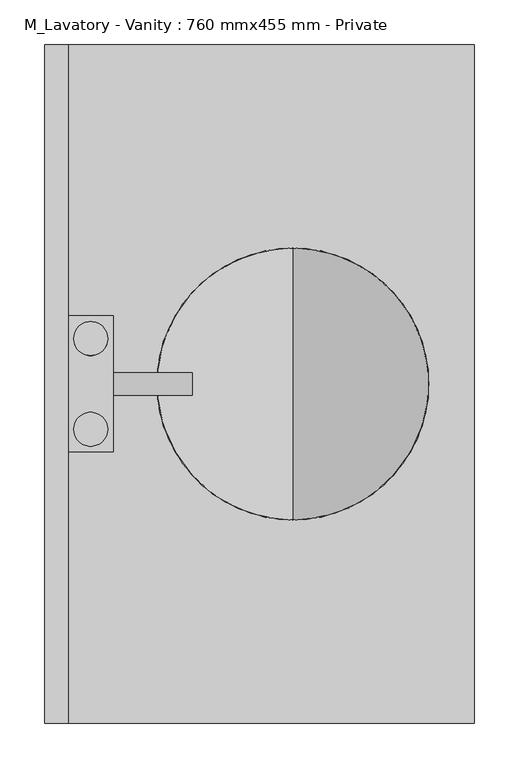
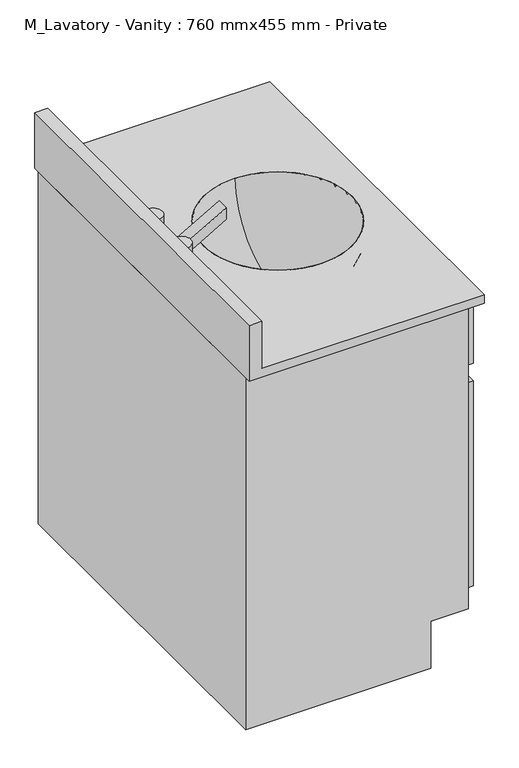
"""IFC4 building model written with IfcOpenShell, lengths in millimetres: flow terminal geometry, M_Lavatory - Vanity : 760 mmx455 mm - Private."""

import ifcopenshell
import ifcopenshell.guid

model = None  # the IFC model being written
_history = None  # IfcOwnerHistory: only IFC2X3 demands one
_inside = {}  # id of a spatial element -> (the spatial element, [elements in it])
_under = {}  # id of a project, library or spatial element -> (it, [spatial elements below it])
_declared = {}  # id of a project -> (the project, [libraries it declares])
_typed = {}  # id of a type object -> (the type object, [elements of that type])
_made_of = {}  # id of a material, layer set ... -> (it, [elements and type objects made of it])


def new_model(schema):
    """Start an empty IFC model of exactly this schema.

    Asked for "IFC4X3", IfcOpenShell would pick the latest addendum, in which some entities
    have other attributes; the version numbers below select the first issue.
    IFC2X3 requires an IfcOwnerHistory on every rooted entity: one is made here for all.
    """
    global model, _history
    if schema == "IFC4X3":
        model = ifcopenshell.file(schema_version=(4, 3, 0, 0))
    else:
        model = ifcopenshell.file(schema=schema)
    _inside.clear()
    _under.clear()
    _declared.clear()
    _typed.clear()
    _made_of.clear()
    _history = None
    if model.schema == "IFC2X3":
        org = make("IfcOrganization", Name="unknown")
        user = make(
            "IfcPersonAndOrganization",
            ThePerson=make("IfcPerson", FamilyName="unknown"),
            TheOrganization=org,
        )
        app = make(
            "IfcApplication",
            ApplicationDeveloper=org,
            Version="unknown",
            ApplicationFullName="unknown",
            ApplicationIdentifier="unknown",
        )
        _history = make(
            "IfcOwnerHistory",
            OwningUser=user,
            OwningApplication=app,
            ChangeAction="ADDED",
            CreationDate=0,
        )
    return model


def make(cls, **values):
    """One entity of the class cls with the attributes given. An attribute that is None is left unset."""
    return model.create_entity(
        cls, **{name: value for name, value in values.items() if value is not None}
    )


def rooted(cls, **values):
    """An entity with a GlobalId (a new one), such as an element, a storey or a relation."""
    return make(cls, GlobalId=ifcopenshell.guid.new(), OwnerHistory=_history, **values)


def si_unit(unit_type, name, prefix=None):
    """IfcSIUnit, for example si_unit("LENGTHUNIT", "METRE", prefix="MILLI")."""
    return make("IfcSIUnit", UnitType=unit_type, Prefix=prefix, Name=name)


def assignment(units):
    """IfcUnitAssignment: the units of a project."""
    return None if units is None else make("IfcUnitAssignment", Units=units)


def point(xyz):
    """IfcCartesianPoint."""
    return None if xyz is None else make("IfcCartesianPoint", Coordinates=xyz)


def direction(xyz):
    """IfcDirection."""
    return None if xyz is None else make("IfcDirection", DirectionRatios=xyz)


def frame(location, z_axis=None, x_axis=None):
    """IfcAxis2Placement3D, a coordinate frame: its origin and axes. An axis left out is left unset."""
    return make(
        "IfcAxis2Placement3D",
        Location=point(location),
        Axis=direction(z_axis),
        RefDirection=direction(x_axis),
    )


def origin():
    """The frame at (0, 0, 0) with its axes left unset."""
    return frame((0.0, 0.0, 0.0))


def place(relative_to, where):
    """IfcLocalPlacement: puts the frame where relative to a parent placement (None: the world)."""
    return make(
        "IfcLocalPlacement", PlacementRelTo=relative_to, RelativePlacement=where
    )


def context(
    kind, dimensions, precision=None, world=None, true_north=None, identifier=None
):
    """IfcGeometricRepresentationContext, for example the 3D "Model" context."""
    return make(
        "IfcGeometricRepresentationContext",
        ContextIdentifier=identifier,
        ContextType=kind,
        CoordinateSpaceDimension=dimensions,
        Precision=precision,
        WorldCoordinateSystem=world,
        TrueNorth=true_north,
    )


def project(units=None, contexts=None):
    """IfcProject with its units and contexts."""
    return rooted(
        "IfcProject",
        Name="project",
        RepresentationContexts=contexts,
        UnitsInContext=assignment(units),
    )


def spatial(cls, under=None, at=None, **own):
    """A site, building, storey or space (cls), placed at a placement, below another one or the project."""
    s = rooted(cls, ObjectPlacement=at, **own)
    if under is not None:
        _under.setdefault(under.id(), (under, []))[1].append(s)
    return s


def polyline(points):
    """IfcPolyline through the points."""
    return make("IfcPolyline", Points=[point(p) for p in points])


def circle_curve(where, radius):
    """IfcCircle in the frame where."""
    return make("IfcCircle", Position=where, Radius=radius)


def ellipse_curve(where, semi_axis1, semi_axis2):
    """IfcEllipse in the frame where."""
    return make(
        "IfcEllipse", Position=where, SemiAxis1=semi_axis1, SemiAxis2=semi_axis2
    )


def trimmed(basis, trim1, trim2, sense, master):
    """IfcTrimmedCurve: the piece of a basis curve between two trims."""
    return make(
        "IfcTrimmedCurve",
        BasisCurve=basis,
        Trim1=trim1,
        Trim2=trim2,
        SenseAgreement=sense,
        MasterRepresentation=master,
    )


def faces_of(points, faces, orient=None, outer=None):
    """IfcFace entities. A face is a list of loops; a loop is a list of indices into points, from 0.

    orient and outer hold one flag for each loop. By default every Orientation is true, the
    first loop of a face is its IfcFaceOuterBound and the others are IfcFaceBound.
    """
    made = []
    for i, loops in enumerate(faces):
        bounds = []
        for j, loop in enumerate(loops):
            is_outer = j == 0 if outer is None else outer[i][j]
            bounds.append(
                make(
                    "IfcFaceOuterBound" if is_outer else "IfcFaceBound",
                    Bound=make("IfcPolyLoop", Polygon=[points[k] for k in loop]),
                    Orientation=True if orient is None else orient[i][j],
                )
            )
        made.append(make("IfcFace", Bounds=bounds))
    return made


def faceted_brep(points, faces, orient=None, outer=None, voids=None):
    """IfcFacetedBrep: a solid bounded by flat faces; with voids (closed shells), ...WithVoids."""
    shared = [point(p) for p in points]
    hull = make("IfcClosedShell", CfsFaces=faces_of(shared, faces, orient, outer))
    if voids is None:
        return make("IfcFacetedBrep", Outer=hull)
    return make(
        "IfcFacetedBrepWithVoids",
        Outer=hull,
        Voids=[
            make(cls, CfsFaces=faces_of(shared, fs, o, b)) for cls, fs, o, b in voids
        ],
    )


def shape(context_of_items, identifier, shape_type, items):
    """IfcShapeRepresentation: the items that make up one representation, for example the "Body"."""
    return make(
        "IfcShapeRepresentation",
        ContextOfItems=context_of_items,
        RepresentationIdentifier=identifier,
        RepresentationType=shape_type,
        Items=items,
    )


def source(mapping_origin, context_of_items, identifier, shape_type, items):
    """IfcRepresentationMap: a shape defined once, which mapped items show again and again."""
    return make(
        "IfcRepresentationMap",
        MappingOrigin=mapping_origin,
        MappedRepresentation=shape(context_of_items, identifier, shape_type, items),
    )


def transform(
    local_origin,
    x_axis=None,
    y_axis=None,
    z_axis=None,
    scale=None,
    scale2=None,
    scale3=None,
    uniform=True,
):
    """IfcCartesianTransformationOperator3D, or its non-uniform kind. x_axis, y_axis, z_axis: its Axis1, 2, 3."""
    if uniform:
        return make(
            "IfcCartesianTransformationOperator3D",
            Axis1=direction(x_axis),
            Axis2=direction(y_axis),
            LocalOrigin=point(local_origin),
            Scale=scale,
            Axis3=direction(z_axis),
        )
    return make(
        "IfcCartesianTransformationOperator3DnonUniform",
        Axis1=direction(x_axis),
        Axis2=direction(y_axis),
        LocalOrigin=point(local_origin),
        Scale=scale,
        Axis3=direction(z_axis),
        Scale2=scale2,
        Scale3=scale3,
    )


def mapped(mapping_source, mapping_target):
    """IfcMappedItem: shows the shape of a source again, moved by a transform."""
    return make(
        "IfcMappedItem", MappingSource=mapping_source, MappingTarget=mapping_target
    )


def made_of(thing, what):
    """Note that an element or type object is made of a material, layer set ...; save() writes the relation."""
    if what is not None:
        _made_of.setdefault(what.id(), (what, []))[1].append(thing)
    return thing


def element(
    cls,
    number,
    at=None,
    inside=None,
    cuts=None,
    type_object=None,
    material=None,
    context=None,
    identifier="Body",
    shape_type=None,
    held_by="IfcProductDefinitionShape",
    body=None,
    shapes=None,
    **own,
):
    """One element of the class cls, such as IfcWall. Its Tag is "e" and its number.

    at: its placement. inside: the storey or other place that contains it. cuts: it is an
    opening in that element (IfcRelVoidsElement). A single representation is given by context,
    identifier, shape_type and body (its items); several are given by shapes. held_by: the class
    of the entity that holds the representations. save() writes the other relations.
    """
    e = rooted(cls, Tag="e%d" % number, ObjectPlacement=at, **own)
    if body is not None:
        shapes = [shape(context, identifier, shape_type, body)]
    if shapes is not None:
        e.Representation = make(held_by, Representations=shapes)
    if inside is not None:
        _inside.setdefault(inside.id(), (inside, []))[1].append(e)
    if cuts is not None:
        rooted(
            "IfcRelVoidsElement", RelatingBuildingElement=cuts, RelatedOpeningElement=e
        )
    if type_object is not None:
        _typed.setdefault(type_object.id(), (type_object, []))[1].append(e)
    return made_of(e, material)


def aggregate(whole, parts):
    """IfcRelAggregates: a whole, such as a stair, and the parts it consists of."""
    return rooted("IfcRelAggregates", RelatingObject=whole, RelatedObjects=parts)


def save(model, path):
    """Write the relations noted so far, then the file.

    IfcRelAggregates (storeys below a building ...), IfcRelContainedInSpatialStructure (elements
    in a storey), IfcRelDefinesByType, IfcRelAssociatesMaterial and IfcRelDeclares: one each for
    every whole, place, type object, material and project.
    """
    for whole, parts in _under.values():
        aggregate(whole, parts)
    for where, things in _inside.values():
        rooted(
            "IfcRelContainedInSpatialStructure",
            RelatedElements=things,
            RelatingStructure=where,
        )
    for kind, things in _typed.values():
        rooted("IfcRelDefinesByType", RelatedObjects=things, RelatingType=kind)
    for what, things in _made_of.values():
        rooted("IfcRelAssociatesMaterial", RelatedObjects=things, RelatingMaterial=what)
    for by, libraries in _declared.values():
        rooted("IfcRelDeclares", RelatingContext=by, RelatedDefinitions=libraries)
    model.write(path)


def plane_surface(at):
    """IfcPlane: the flat surface through the origin of the frame at, square to its z axis."""
    return make("IfcPlane", Position=at)


def cylinder_surface(at, radius):
    """IfcCylindricalSurface: all points at the distance radius from the z axis of the frame at."""
    return make("IfcCylindricalSurface", Position=at, Radius=radius)


def revolved_surface(curve, axis_point, axis_direction):
    """IfcSurfaceOfRevolution: the curve turned about the line through axis_point along axis_direction."""
    return make(
        "IfcSurfaceOfRevolution",
        SweptCurve=make("IfcArbitraryOpenProfileDef", ProfileType="CURVE", Curve=curve),
        AxisPosition=make("IfcAxis1Placement", Location=point(axis_point), Axis=direction(axis_direction)),
    )


def advanced_brep(points, edges, surfaces, faces):
    """IfcAdvancedBrep: a solid bounded by faces that lie on surfaces and meet in shared edges.

    An edge is (start, end): straight between two places in points (the first is 0);
    or (start, end, curve); or (start, end, curve, False) where it runs against its curve.
    A face is (place in surfaces, loops), or (place, loops, False) where it looks against
    its surface's normal. A loop lists edges by number (the first is 1), with a minus sign
    where the edge is run from its end to its start. The first loop is the outer one.
    """
    corners = [point(p) for p in points]
    vertices = [make("IfcVertexPoint", VertexGeometry=c) for c in corners]
    made = []
    for start, end, *more in edges:
        made.append(
            make(
                "IfcEdgeCurve",
                EdgeStart=vertices[start],
                EdgeEnd=vertices[end],
                EdgeGeometry=more[0] if more else make("IfcPolyline", Points=[corners[start], corners[end]]),
                SameSense=more[1] if len(more) > 1 else True,
            )
        )
    hull = []
    for where, loops, *sense in faces:
        bounds = []
        for j, loop in enumerate(loops):
            ring = [make("IfcOrientedEdge", EdgeElement=made[abs(k) - 1], Orientation=k > 0) for k in loop]
            bounds.append(
                make(
                    "IfcFaceOuterBound" if j == 0 else "IfcFaceBound",
                    Bound=make("IfcEdgeLoop", EdgeList=ring),
                    Orientation=True,
                )
            )
        hull.append(make("IfcAdvancedFace", Bounds=bounds, FaceSurface=surfaces[where], SameSense=sense[0] if sense else True))
    return make("IfcAdvancedBrep", Outer=make("IfcClosedShell", CfsFaces=hull))


def m_lavatory_vanity_760_mmx455_mm_private_5dea4168(model_context):
    return source(origin(), model_context, "Body", "SolidModel", [
        advanced_brep(
        [(32.54375, -50.8, 844.55), (70.64375, -50.8, 844.55), (32.54375, 50.8, 844.55), (70.64375, 50.8, 844.55), (70.64375, -50.8, 806.45), (32.54375, -50.8, 806.45), (70.64375, 50.8, 806.45), (32.54375, 50.8, 806.45), (76.99375, -76.2, 806.45), (76.99375, -12.7, 806.45), (76.99375, 12.7, 806.45), (76.99375, 76.2, 806.45), (26.19375, 76.2, 806.45), (26.19375, -76.2, 806.45), (76.99375, 76.2, 781.05), (76.99375, 12.7, 781.05), (76.99375, -12.7, 781.05), (76.99375, -76.2, 781.05), (26.19375, -76.2, 781.05), (26.19375, 76.2, 781.05), (165.1, 12.7, 857.25), (165.1, 12.7, 831.85), (165.1, -12.7, 831.85), (165.1, -12.7, 857.25)],
        [
            (0, 1, circle_curve(frame((51.59375, -50.8, 844.55), z_axis=(0.0, 0.0, 1.0), x_axis=(1.0, 0.0, 0.0)), 19.05)),
            (1, 0, circle_curve(frame((51.59375, -50.8, 844.55), z_axis=(0.0, 0.0, 1.0), x_axis=(1.0, 0.0, 0.0)), 19.05)),
            (2, 3, circle_curve(frame((51.59375, 50.8, 844.55), z_axis=(0.0, 0.0, 1.0), x_axis=(1.0, 0.0, 0.0)), 19.05)),
            (3, 2, circle_curve(frame((51.59375, 50.8, 844.55), z_axis=(0.0, 0.0, 1.0), x_axis=(1.0, 0.0, 0.0)), 19.05)),
            (1, 4),
            (4, 5, circle_curve(frame((51.59375, -50.8, 806.45), z_axis=(0.0, 0.0, 1.0), x_axis=(1.0, 0.0, 0.0)), 19.05)),
            (5, 0),
            (5, 4, circle_curve(frame((51.59375, -50.8, 806.45), z_axis=(0.0, 0.0, 1.0), x_axis=(1.0, 0.0, 0.0)), 19.05)),
            (3, 6),
            (6, 7, circle_curve(frame((51.59375, 50.8, 806.45), z_axis=(0.0, 0.0, 1.0), x_axis=(1.0, 0.0, 0.0)), 19.05)),
            (7, 2),
            (7, 6, circle_curve(frame((51.59375, 50.8, 806.45), z_axis=(0.0, 0.0, 1.0), x_axis=(1.0, 0.0, 0.0)), 19.05)),
            (8, 9),
            (9, 10),
            (10, 11),
            (11, 12),
            (12, 13),
            (13, 8),
            (14, 15),
            (15, 16),
            (16, 17),
            (17, 18),
            (18, 19),
            (19, 14),
            (13, 18),
            (17, 8),
            (12, 19),
            (11, 14),
            (10, 15),
            (16, 9),
            (10, 20),
            (20, 21),
            (21, 15),
            (16, 22),
            (22, 23),
            (23, 9),
            (21, 22),
            (20, 23),
        ],
        [
            plane_surface(frame((70.64375, -50.8, 844.55), z_axis=(0.0, 0.0, 1.0), x_axis=(0.0, -1.0, 0.0))),
            cylinder_surface(frame((51.59375, -50.8, 806.45), z_axis=(0.0, 0.0, 1.0), x_axis=(1.0, 0.0, 0.0)), 19.05),
            cylinder_surface(frame((51.59375, 50.8, 0.0), z_axis=(0.0, 0.0, 1.0), x_axis=(1.0, 0.0, 0.0)), 19.05),
            plane_surface(frame((26.19375, -76.2, 806.45), z_axis=(0.0, 0.0, 1.0), x_axis=(-1.0, 0.0, 0.0))),
            plane_surface(frame((26.19375, -76.2, 781.05), z_axis=(0.0, 0.0, -1.0), x_axis=(1.0, 0.0, 0.0))),
            plane_surface(frame((76.99375, -76.2, 806.45), z_axis=(0.0, -1.0, 0.0), x_axis=(0.0, 0.0, -1.0))),
            plane_surface(frame((26.19375, -76.2, 806.45), z_axis=(-1.0, 0.0, 0.0), x_axis=(0.0, 0.0, -1.0))),
            plane_surface(frame((26.19375, 76.2, 806.45), z_axis=(0.0, 1.0, 0.0), x_axis=(0.0, 0.0, -1.0))),
            plane_surface(frame((76.99375, 76.2, 806.45), z_axis=(1.0, 0.0, 0.0), x_axis=(0.0, 0.0, -1.0))),
            plane_surface(frame((76.99375, 12.7, 806.45), z_axis=(0.0, 1.0, 0.0), x_axis=(0.0, 0.0, -1.0))),
            plane_surface(frame((76.99375, -12.7, 806.45), z_axis=(0.0, -1.0, 0.0), x_axis=(0.0, 0.0, 1.0))),
            plane_surface(frame((76.99375, 12.7, 781.05), z_axis=(0.4994972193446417, 0.0, -0.8663154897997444), x_axis=(0.0, -1.0, 0.0))),
            plane_surface(frame((165.1, 12.7, 831.85), z_axis=(1.0, 0.0, 0.0), x_axis=(0.0, -1.0, 0.0))),
            plane_surface(frame((165.1, 12.7, 857.25), z_axis=(-0.4994972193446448, 0.0, 0.8663154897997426), x_axis=(0.0, -1.0, 0.0))),
        ],
        [
            (0, [[1, 2]]),
            (0, [[3, 4]]),
            (1, [[5, 6, 7, -2]]),
            (1, [[-7, 8, -5, -1]]),
            (2, [[9, 10, 11, -4]]),
            (2, [[-11, 12, -9, -3]]),
            (3, [[13, 14, 15, 16, 17, 18], [-8, -6], [-12, -10]]),
            (4, [[19, 20, 21, 22, 23, 24]]),
            (5, [[25, -22, 26, -18]]),
            (6, [[27, -23, -25, -17]]),
            (7, [[28, -24, -27, -16]]),
            (8, [[-15, 29, -19, -28]]),
            (8, [[-21, 30, -13, -26]]),
            (9, [[-29, 31, 32, 33]]),
            (10, [[-30, 34, 35, 36]]),
            (11, [[37, -34, -20, -33]]),
            (12, [[38, -35, -37, -32]]),
            (13, [[-14, -36, -38, -31]]),
        ],
    ),
        advanced_brep(
        [(277.99375, 0.0, 628.65), (277.99375, 152.4, 781.05), (277.99375, -152.4, 781.05), (277.99375, 44.45, 628.65), (277.99375, 0.0, 628.65), (277.99375, -44.45, 628.65), (277.99375, 157.6028553, 762.0), (277.99375, -157.6028553, 762.0)],
        [
            (0, 1, circle_curve(frame((277.99375, 0.0, 781.05), z_axis=(1.0, 0.0, 0.0), x_axis=(0.0, 1.0, 0.0)), 152.4)),
            (1, 2, circle_curve(frame((277.99375, 0.0, 781.05), z_axis=(0.0, 0.0, 1.0), x_axis=(0.0, -1.0, 0.0)), 152.4)),
            (2, 0, circle_curve(frame((277.99375, 0.0, 781.05), z_axis=(1.0, 0.0, 0.0), x_axis=(0.0, -1.0, 0.0)), 152.4)),
            (2, 1, circle_curve(frame((277.99375, 0.0, 781.05), z_axis=(0.0, 0.0, 1.0), x_axis=(0.0, -1.0, 0.0)), 152.4)),
            (3, 4),
            (4, 5),
            (5, 3, circle_curve(frame((277.99375, 0.0, 628.65), z_axis=(0.0, 0.0, -1.0), x_axis=(0.0, -1.0, 0.0)), 44.45)),
            (3, 5, circle_curve(frame((277.99375, 0.0, 628.65), z_axis=(0.0, 0.0, -1.0), x_axis=(0.0, -1.0, 0.0)), 44.45)),
            (6, 3, circle_curve(frame((277.99375, 0.0, 781.05), z_axis=(-1.0, 0.0, 0.0), x_axis=(0.0, 1.0, 0.0)), 158.75)),
            (5, 7, circle_curve(frame((277.99375, 0.0, 781.05), z_axis=(-1.0, 0.0, 0.0), x_axis=(0.0, -1.0, 0.0)), 158.75)),
            (7, 6, circle_curve(frame((277.99375, 0.0, 762.0), z_axis=(0.0, 0.0, -1.0), x_axis=(0.0, -1.0, 0.0)), 157.6028553)),
            (6, 7, circle_curve(frame((277.99375, 0.0, 762.0), z_axis=(0.0, 0.0, -1.0), x_axis=(0.0, -1.0, 0.0)), 157.6028553)),
            (1, 6),
            (7, 2),
        ],
        [
            revolved_surface(trimmed(ellipse_curve(frame((277.99375, 0.0, 781.05), z_axis=(1.0, 0.0, 0.0), x_axis=(0.0, -1.0, 0.0)), 152.4, 152.4), [point((277.99375, -152.4, 781.05))], [point((277.99375, 0.0, 628.65))], True, "CARTESIAN"), (277.99375, 0.0, 520.7), (0.0, 0.0, 1.0)),
            plane_surface(frame((277.99375, 0.0, 628.65), z_axis=(0.0, 0.0, -1.0), x_axis=(0.0, -1.0, 0.0))),
            revolved_surface(trimmed(ellipse_curve(frame((277.99375, 0.0, 781.05), z_axis=(-1.0, 0.0, 0.0), x_axis=(0.0, -1.0, 0.0)), 158.75, 158.75), [point((277.99375, -44.45, 628.65))], [point((277.99375, -157.6028553, 762.0))], True, "CARTESIAN"), (277.99375, 0.0, 520.7), (0.0, 0.0, 1.0)),
            revolved_surface(polyline([(277.99375, -157.6028553, 762.0), (277.99375, -152.4, 781.05)]), (277.99375, 0.0, 520.7), (0.0, 0.0, 1.0)),
        ],
        [
            (0, [[1, 2, 3]]),
            (0, [[-3, 4, -1]]),
            (1, [[5, 6, 7]]),
            (1, [[-6, -5, 8]]),
            (2, [[9, -7, 10, 11]]),
            (2, [[-10, -8, -9, 12]]),
            (3, [[13, -11, 14, -2]]),
            (3, [[-14, -12, -13, -4]]),
        ],
    ),
        advanced_brep(
        [(481.19375, 380.0, 781.05), (26.19375, 380.0, 781.05), (26.19375, -380.0, 781.05), (481.19375, -380.0, 781.05), (430.39375, 0.0, 781.05), (125.59375, 0.0, 781.05), (481.19375, -380.0, 762.0), (0.0, -380.0, 762.0), (0.0, 380.0, 762.0), (481.19375, 380.0, 762.0), (125.59375, 0.0, 762.0), (430.39375, 0.0, 762.0), (26.19375, -380.0, 882.65), (0.0, -380.0, 882.65), (0.0, 380.0, 882.65), (26.19375, 380.0, 882.65)],
        [
            (0, 1),
            (1, 2),
            (2, 3),
            (3, 0),
            (4, 5, circle_curve(frame((277.99375, 0.0, 781.05), z_axis=(0.0, 0.0, -1.0), x_axis=(1.0, 0.0, 0.0)), 152.4)),
            (5, 4, circle_curve(frame((277.99375, 0.0, 781.05), z_axis=(0.0, 0.0, -1.0), x_axis=(1.0, 0.0, 0.0)), 152.4)),
            (6, 7),
            (7, 8),
            (8, 9),
            (9, 6),
            (10, 11, circle_curve(frame((277.99375, 0.0, 762.0), z_axis=(0.0, 0.0, 1.0), x_axis=(1.0, 0.0, 0.0)), 152.4)),
            (11, 10, circle_curve(frame((277.99375, 0.0, 762.0), z_axis=(0.0, 0.0, 1.0), x_axis=(1.0, 0.0, 0.0)), 152.4)),
            (6, 3),
            (2, 12),
            (12, 13),
            (13, 7),
            (13, 14),
            (14, 8),
            (14, 15),
            (15, 1),
            (0, 9),
            (5, 10),
            (11, 4),
            (12, 15),
        ],
        [
            plane_surface(frame((0.0, -380.0, 781.05), z_axis=(0.0, 0.0, 1.0), x_axis=(-1.0, 0.0, 0.0))),
            plane_surface(frame((0.0, -380.0, 762.0), z_axis=(0.0, 0.0, -1.0), x_axis=(1.0, 0.0, 0.0))),
            plane_surface(frame((481.19375, -380.0, 781.05), z_axis=(0.0, -1.0, 0.0), x_axis=(0.0, 0.0, -1.0))),
            plane_surface(frame((0.0, -380.0, 781.05), z_axis=(-1.0, 0.0, 0.0), x_axis=(0.0, 0.0, -1.0))),
            plane_surface(frame((0.0, 380.0, 781.05), z_axis=(0.0, 1.0, 0.0), x_axis=(0.0, 0.0, -1.0))),
            plane_surface(frame((481.19375, 380.0, 781.05), z_axis=(1.0, 0.0, 0.0), x_axis=(0.0, 0.0, -1.0))),
            revolved_surface(polyline([(430.39374999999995, 0.0, 781.05), (430.39374999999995, 0.0, 762.0)]), (277.99375, 0.0, 762.0), (0.0, 0.0, 1.0)),
            plane_surface(frame((0.0, -380.0, 882.65), z_axis=(0.0, 0.0, 1.0), x_axis=(-1.0, 0.0, 0.0))),
            plane_surface(frame((26.19375, 380.0, 882.65), z_axis=(1.0, 0.0, 0.0), x_axis=(0.0, 0.0, -1.0))),
        ],
        [
            (0, [[1, 2, 3, 4], [5, 6]]),
            (1, [[7, 8, 9, 10], [11, 12]]),
            (2, [[13, -3, 14, 15, 16, -7]]),
            (3, [[17, 18, -8, -16]]),
            (4, [[19, 20, -1, 21, -9, -18]]),
            (5, [[-13, -10, -21, -4]]),
            (6, [[-6, 22, -12, 23]]),
            (6, [[-11, -22, -5, -23]]),
            (7, [[24, -19, -17, -15]]),
            (8, [[-14, -2, -20, -24]]),
        ],
    ),
        faceted_brep([(379.59375, -367.3, 0.0), (0.0, -367.3, 0.0), (0.0, 367.3, 0.0), (379.59375, 367.3, 0.0), (379.59375, -367.3, 101.6), (455.79375, -367.3, 101.6), (455.79375, -367.3, 762.0), (0.0, -367.3, 762.0), (0.0, 367.3, 762.0), (455.79375, 367.3, 762.0), (455.79375, 367.3, 101.6), (379.59375, 367.3, 101.6), (26.19375, -341.9, 762.0), (26.19375, 341.9, 762.0), (443.09375, 341.9, 762.0), (443.09375, -341.9, 762.0), (455.79375, 341.9, 736.6), (455.79375, 341.9, 609.6), (455.79375, -341.9, 609.6), (455.79375, -341.9, 736.6), (455.79375, 341.9, 571.5), (455.79375, 341.9, 368.3), (455.79375, 87.9, 368.3), (455.79375, 87.9, 571.5), (455.79375, 341.9, 330.2), (455.79375, 341.9, 127.0), (455.79375, 87.9, 127.0), (455.79375, 87.9, 330.2), (455.79375, 49.8, 571.5), (455.79375, 49.8, 127.0), (455.79375, -341.9, 127.0), (455.79375, -341.9, 571.5), (443.09375, -341.9, 368.3), (443.09375, 341.9, 368.3), (26.19375, 341.9, 368.3), (26.19375, -341.9, 368.3), (481.19375, -341.9, 736.6), (481.19375, -341.9, 609.6), (481.19375, 341.9, 609.6), (481.19375, 341.9, 736.6), (481.19375, 87.9, 571.5), (481.19375, 87.9, 368.3), (481.19375, 341.9, 368.3), (481.19375, 341.9, 571.5), (481.19375, 87.9, 330.2), (481.19375, 87.9, 127.0), (481.19375, 341.9, 127.0), (481.19375, 341.9, 330.2), (481.19375, -341.9, 571.5), (481.19375, -341.9, 127.0), (481.19375, 49.8, 127.0), (481.19375, 49.8, 571.5)], [[[0, 1, 2, 3]], [[0, 4, 5, 6, 7, 1]], [[1, 7, 8, 2]], [[2, 8, 9, 10, 11, 3]], [[3, 11, 4, 0]], [[6, 9, 8, 7], [12, 13, 14, 15]], [[5, 4, 11, 10]], [[6, 5, 10, 9], [16, 17, 18, 19], [20, 21, 22, 23], [24, 25, 26, 27], [28, 29, 30, 31]], [[32, 33, 34, 35]], [[35, 12, 15, 32]], [[34, 13, 12, 35]], [[33, 14, 13, 34]], [[32, 15, 14, 33]], [[36, 37, 38, 39]], [[40, 41, 42, 43]], [[44, 45, 46, 47]], [[48, 49, 50, 51]], [[39, 16, 19, 36]], [[38, 17, 16, 39]], [[37, 18, 17, 38]], [[36, 19, 18, 37]], [[43, 20, 23, 40]], [[42, 21, 20, 43]], [[41, 22, 21, 42]], [[40, 23, 22, 41]], [[47, 24, 27, 44]], [[46, 25, 24, 47]], [[45, 26, 25, 46]], [[44, 27, 26, 45]], [[51, 28, 31, 48]], [[50, 29, 28, 51]], [[49, 30, 29, 50]], [[48, 31, 30, 49]]]),
    ])


if __name__ == "__main__":
    model = new_model("IFC4")
    model_context = context("Model", 3, world=origin())
    ifc_project = project(units=[si_unit("LENGTHUNIT", "METRE", prefix="MILLI")], contexts=[model_context])
    site = spatial("IfcSite", under=ifc_project)
    building = spatial("IfcBuilding", under=site)
    placement = place(None, origin())
    m_lavatory_vanity_760_mmx455_mm_private_shape = m_lavatory_vanity_760_mmx455_mm_private_5dea4168(model_context)
    element("IfcFlowTerminal", 1, ObjectType="M_Lavatory - Vanity : 760 mmx455 mm - Private", at=placement, inside=building, context=model_context, shape_type="MappedRepresentation", body=[
        mapped(m_lavatory_vanity_760_mmx455_mm_private_shape, transform((0.0, 0.0, 0.0), x_axis=(1.0, 0.0, 0.0), y_axis=(0.0, 1.0, 0.0), z_axis=(0.0, 0.0, 1.0))),
    ])
    save(model, "model.ifc")
